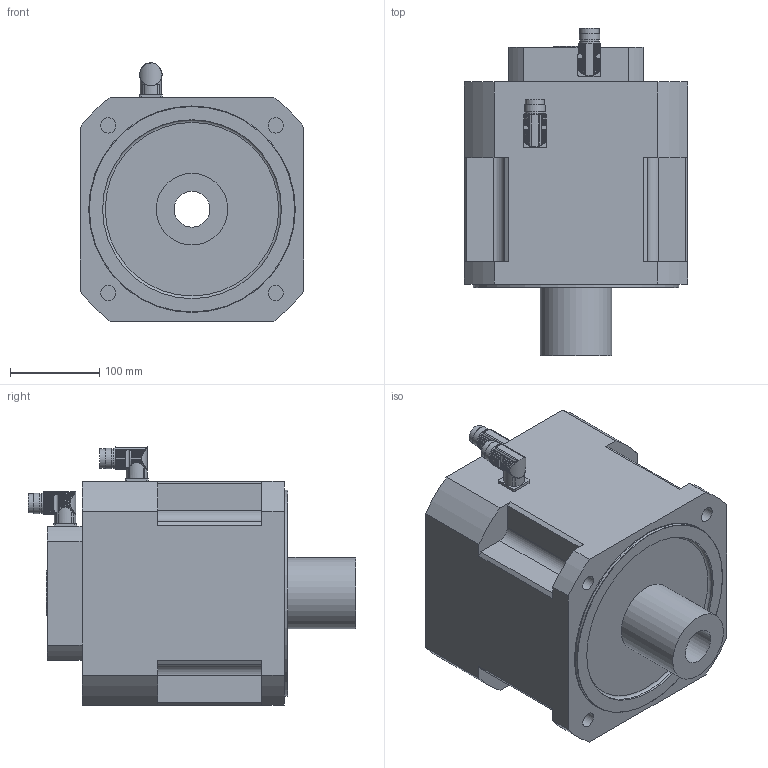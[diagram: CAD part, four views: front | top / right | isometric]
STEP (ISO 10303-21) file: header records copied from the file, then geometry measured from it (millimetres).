
FILE_DESCRIPTION(/* description */ (''),/* implementation_level */ '2;1');
FILE_NAME(/* name */ 'MH4272-Ux-Nxxx-Gxx-M0-P4',/* time_stamp */ '2008-09-01T09:42:13+02:00',/* author */ (''),/* organization */ (''),/* preprocessor_version */ 'ST-DEVELOPER v8',/* originating_system */ 'UNIGRAPHICS SOLUTIONS - UNIGRAPHICS 18.0',/* authorisation */ '');
FILE_SCHEMA (('AUTOMOTIVE_DESIGN { 1 2 10303 214 0 1 1 1 }'));
Length unit declared in the file: millimetre
Products named in the file (2): Winkelflanschdose_0; MH4272_Ux_Nxxx_Gxx_M0_P4_0
Assembly tree (2 placements, depth 2):
  MH4272_Ux_Nxxx_Gxx_M0_P4_0
    Winkelflanschdose_0  x2
Bounding box: 250 x 366.15 x 288.49 mm (x, y, z)
Volume: 13837659.8 mm3; surface area: 452500 mm2
Topology: 3 solids, 3 shells, 395 faces, 1117 edges, 745 vertices
Faces by surface type: cylinder 321, plane 71, torus 2, cone 1
Full cylindrical faces by diameter (mm): 16 x2, 17 x4, 21 x2, 21.5 x2, 23 x4, 40 x1, 50 x1, 80 x1, 200 x1, 230 x1
Entity records: 7828 total; most frequent: CARTESIAN_POINT 1907, ORIENTED_EDGE 1254, DIRECTION 1186, EDGE_CURVE 627, AXIS2_PLACEMENT_3D 465, VERTEX_POINT 428, EDGE_LOOP 269, LINE 256
